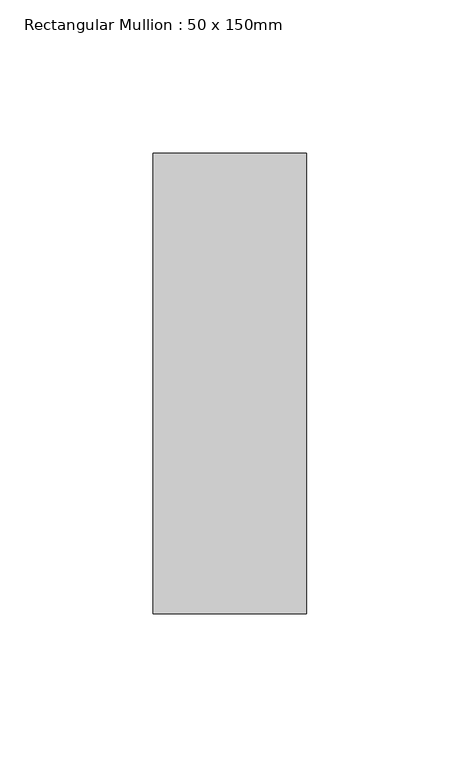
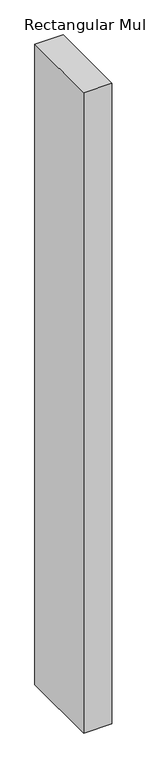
"""IFC4 building model written with IfcOpenShell, lengths in millimetres: member geometry, Rectangular Mullion : 50 x 150mm."""

from ifc_helpers import new_model, si_unit, frame, origin, place, context, project, spatial, polyline, outline, extrude, source, transform, mapped, element, save


def rectangular_mullion_50_x_150mm_6588f46c(model_context):
    return source(origin(), model_context, "Body", "SweptSolid", [
        extrude(outline(polyline([(0.0, 75.0), (0.0, -75.0), (-50.0, -75.0), (-50.0, 75.0), (0.0, 75.0)])), frame((0.0, 0.0, -1200.0), z_axis=(0.0, 0.0, 1.0), x_axis=(1.0, 0.0, 0.0)), (0.0, 0.0, 1.0), 1200.0),
    ])


if __name__ == "__main__":
    model = new_model("IFC4")
    model_context = context("Model", 3, world=origin())
    ifc_project = project(units=[si_unit("LENGTHUNIT", "METRE", prefix="MILLI")], contexts=[model_context])
    site = spatial("IfcSite", under=ifc_project)
    building = spatial("IfcBuilding", under=site)
    placement = place(None, origin())
    rectangular_mullion_50_x_150mm_shape = rectangular_mullion_50_x_150mm_6588f46c(model_context)
    element("IfcMember", 1, ObjectType="Rectangular Mullion : 50 x 150mm", at=placement, inside=building, context=model_context, shape_type="MappedRepresentation", body=[
        mapped(rectangular_mullion_50_x_150mm_shape, transform((0.0, 0.0, 0.0), x_axis=(1.0, 0.0, 0.0), y_axis=(0.0, 1.0, 0.0), z_axis=(0.0, 0.0, 1.0))),
    ])
    save(model, "model.ifc")
